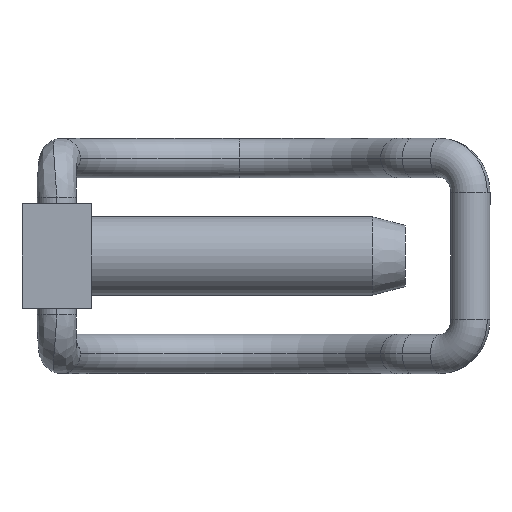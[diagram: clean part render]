
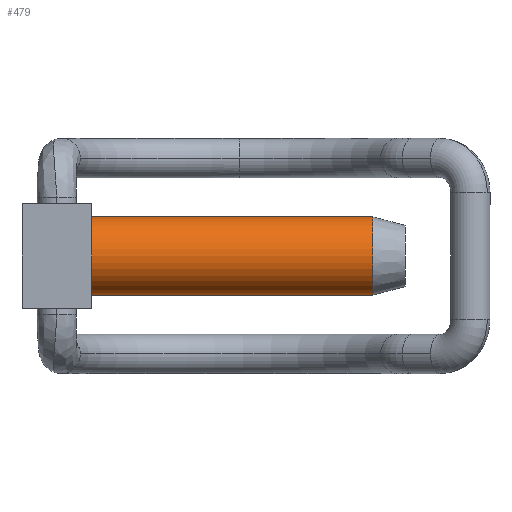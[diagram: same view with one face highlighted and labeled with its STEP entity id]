
A CAD part, left-side view. The second image highlights one B-rep face of the part: STEP entity #479.
In plain terms, the highlighted cylindrical face has radius 5 mm (diameter 10 mm), a partial arc.
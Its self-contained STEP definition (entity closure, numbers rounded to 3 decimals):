
#225 = ORIENTED_EDGE ( 'NONE', *, *, #602, .F. ) ;
#226 = VECTOR ( 'NONE', #1375, 1000. ) ;
#230 = CIRCLE ( 'NONE', #579, 5. ) ;
#248 = CARTESIAN_POINT ( 'NONE',  ( 0., -40., 5. ) ) ;
#264 = VECTOR ( 'NONE', #959, 1000. ) ;
#325 = VERTEX_POINT ( 'NONE', #877 ) ;
#407 = CARTESIAN_POINT ( 'NONE',  ( 0., -40., -5. ) ) ;
#444 = AXIS2_PLACEMENT_3D ( 'NONE', #1585, #1569, #1446 ) ;
#476 = CARTESIAN_POINT ( 'NONE',  ( 0., -35.853, 5. ) ) ;
#479 = ADVANCED_FACE ( 'NONE', ( #1225 ), #486, .T. ) ;
#486 = CYLINDRICAL_SURFACE ( 'NONE', #1367, 5. ) ;
#506 = LINE ( 'NONE', #407, #264 ) ;
#571 = EDGE_LOOP ( 'NONE', ( #225, #1689, #1464, #1810 ) ) ;
#579 = AXIS2_PLACEMENT_3D ( 'NONE', #1229, #1504, #829 ) ;
#602 = EDGE_CURVE ( 'NONE', #1419, #1458, #506, .T. ) ;
#829 = DIRECTION ( 'NONE',  ( 0., 0., 1. ) ) ;
#858 = CARTESIAN_POINT ( 'NONE',  ( 0., -35.853, -5. ) ) ;
#877 = CARTESIAN_POINT ( 'NONE',  ( 0., 0., 5. ) ) ;
#907 = EDGE_CURVE ( 'NONE', #1458, #325, #1755, .T. ) ;
#938 = CARTESIAN_POINT ( 'NONE',  ( 0., -40., 0. ) ) ;
#959 = DIRECTION ( 'NONE',  ( 0., 1., 0. ) ) ;
#1051 = VERTEX_POINT ( 'NONE', #476 ) ;
#1152 = CARTESIAN_POINT ( 'NONE',  ( 0., 0., -5. ) ) ;
#1225 = FACE_OUTER_BOUND ( 'NONE', #571, .T. ) ;
#1229 = CARTESIAN_POINT ( 'NONE',  ( 0., -35.853, 0. ) ) ;
#1313 = EDGE_CURVE ( 'NONE', #1051, #325, #1654, .T. ) ;
#1364 = DIRECTION ( 'NONE',  ( 0., 1., 0. ) ) ;
#1367 = AXIS2_PLACEMENT_3D ( 'NONE', #938, #1364, #1501 ) ;
#1375 = DIRECTION ( 'NONE',  ( 0., 1., 0. ) ) ;
#1419 = VERTEX_POINT ( 'NONE', #858 ) ;
#1446 = DIRECTION ( 'NONE',  ( 0., 0., 1. ) ) ;
#1458 = VERTEX_POINT ( 'NONE', #1152 ) ;
#1464 = ORIENTED_EDGE ( 'NONE', *, *, #1313, .T. ) ;
#1501 = DIRECTION ( 'NONE',  ( 0., 0., 1. ) ) ;
#1504 = DIRECTION ( 'NONE',  ( 0., 1., 0. ) ) ;
#1569 = DIRECTION ( 'NONE',  ( 0., 1., 0. ) ) ;
#1585 = CARTESIAN_POINT ( 'NONE',  ( 0., 0., 0. ) ) ;
#1654 = LINE ( 'NONE', #248, #226 ) ;
#1689 = ORIENTED_EDGE ( 'NONE', *, *, #1739, .T. ) ;
#1739 = EDGE_CURVE ( 'NONE', #1419, #1051, #230, .T. ) ;
#1755 = CIRCLE ( 'NONE', #444, 5. ) ;
#1810 = ORIENTED_EDGE ( 'NONE', *, *, #907, .F. ) ;
